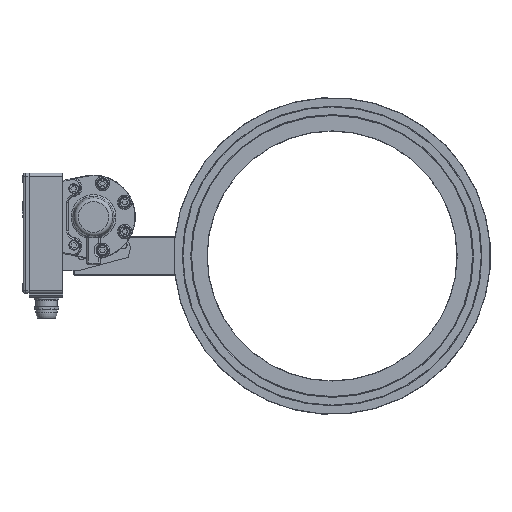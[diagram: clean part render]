
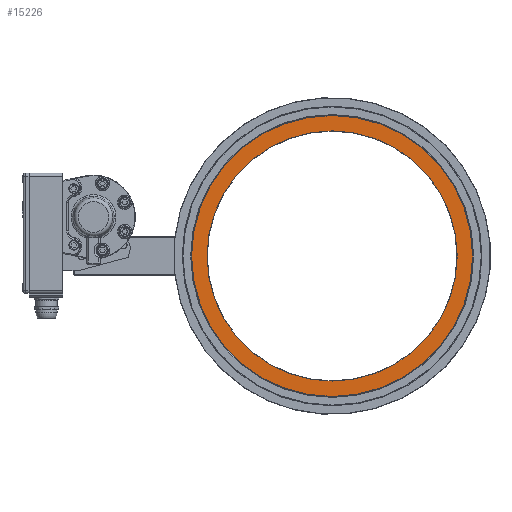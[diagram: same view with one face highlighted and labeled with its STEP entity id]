
A CAD part, top view. The second image highlights one B-rep face of the part: STEP entity #15226.
In plain terms, the highlighted planar face has unit normal (0, 0, 1).
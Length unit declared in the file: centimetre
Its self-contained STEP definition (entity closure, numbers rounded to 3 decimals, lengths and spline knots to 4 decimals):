
#4378=PLANE('',#16398);
#5172=VERTEX_POINT('',#30209);
#5173=VERTEX_POINT('',#30211);
#6378=CIRCLE('',#16430,14.625);
#6379=CIRCLE('',#16431,13.025);
#7317=EDGE_CURVE('',#5172,#5172,#6378,.T.);
#7318=EDGE_CURVE('',#5173,#5173,#6379,.T.);
#10076=ORIENTED_EDGE('',*,*,#7318,.F.);
#10077=ORIENTED_EDGE('',*,*,#7317,.F.);
#13055=EDGE_LOOP('',(#10076));
#13056=EDGE_LOOP('',(#10077));
#14214=FACE_BOUND('',#13055,.T.);
#14215=FACE_BOUND('',#13056,.T.);
#15226=ADVANCED_FACE('',(#14214,#14215),#4378,.F.);
#16398=AXIS2_PLACEMENT_3D('',#30151,#18424,$);
#16430=AXIS2_PLACEMENT_3D('',#30208,#18489,#18490);
#16431=AXIS2_PLACEMENT_3D('',#30210,#18491,#18492);
#18424=DIRECTION('',(0.,0.,-1.));
#18489=DIRECTION('',(0.,0.,-1.));
#18490=DIRECTION('',(-14.625,0.,0.));
#18491=DIRECTION('',(0.,0.,1.));
#18492=DIRECTION('',(13.025,0.,0.));
#30151=CARTESIAN_POINT('',(23.7465,-2.8808,-5.7025));
#30208=CARTESIAN_POINT('',(23.7465,-2.8808,-5.7025));
#30209=CARTESIAN_POINT('',(38.3715,-2.8808,-5.7025));
#30210=CARTESIAN_POINT('',(23.7465,-2.8808,-5.7025));
#30211=CARTESIAN_POINT('',(10.7215,-2.8808,-5.7025));
